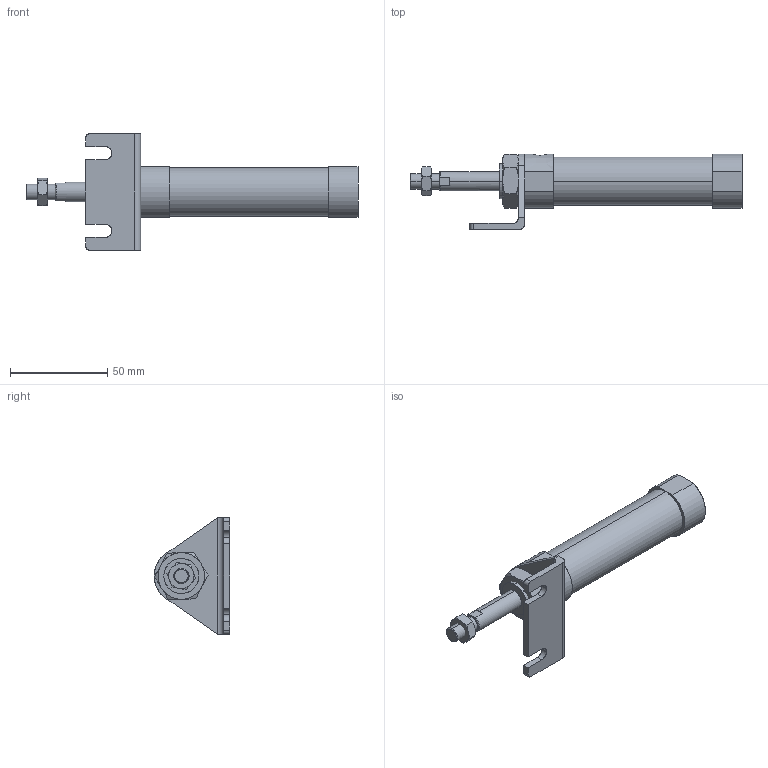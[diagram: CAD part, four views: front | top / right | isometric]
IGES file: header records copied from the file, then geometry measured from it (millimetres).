
Start section: SolidWorks IGES file using analytic representation for surfaces
Global section: file name: C:\Users\Toshiba\Desktop\JGND0-20-25-L.IGS; native system: SolidWorks 2014; preprocessor: SolidWorks 2014; author: Toshiba; date: 160804.100356; units: millimetre
Bounding box: 171 x 39 x 60 mm (x, y, z)
Surface area: 21188.1 mm2 (no closed solid volume)
Topology: 0 solids, 0 shells, 108 faces, 1708 edges, 1708 vertices
Faces by surface type: bspline 72, revolution 36
